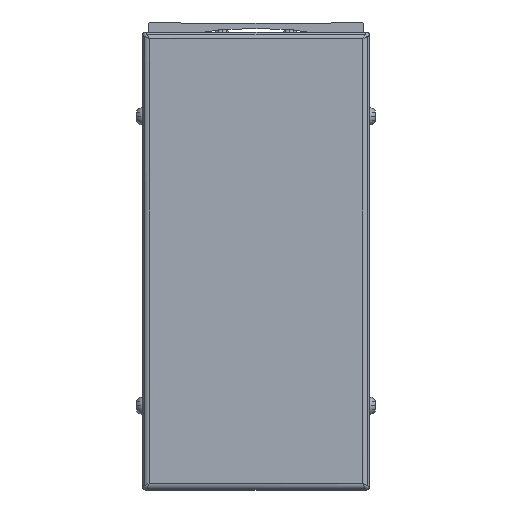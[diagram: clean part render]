
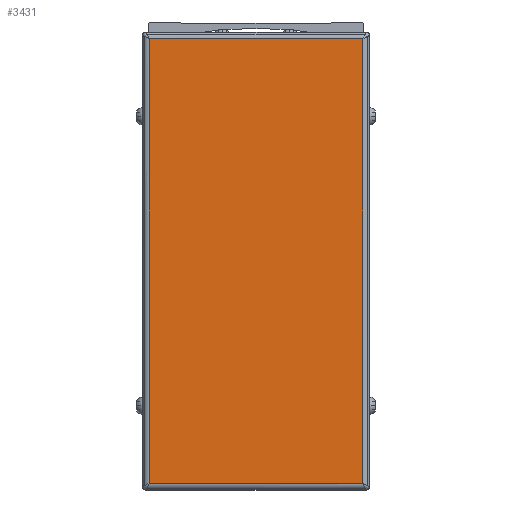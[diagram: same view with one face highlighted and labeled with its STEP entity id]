
A CAD part, front view. The second image highlights one B-rep face of the part: STEP entity #3431.
In plain terms, the highlighted planar face has unit normal (0, -1, 0).
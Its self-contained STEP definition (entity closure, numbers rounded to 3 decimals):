
#3431=ADVANCED_FACE('',(#7697),#7698,.T.);
#7697=FACE_OUTER_BOUND('',#13411,.T.);
#7698=PLANE('',#13412);
#13411=EDGE_LOOP('',(#23054,#23055,#23056,#23057));
#13412=AXIS2_PLACEMENT_3D('',#23058,#23059,#23060);
#23054=ORIENTED_EDGE('',*,*,#35936,.F.);
#23055=ORIENTED_EDGE('',*,*,#35937,.F.);
#23056=ORIENTED_EDGE('',*,*,#35938,.F.);
#23057=ORIENTED_EDGE('',*,*,#35939,.F.);
#23058=CARTESIAN_POINT('',(300.,131.,-44.));
#23059=DIRECTION('',(0.,-1.0,0.));
#23060=DIRECTION('',(0.,0.,1.0));
#35936=EDGE_CURVE('',#44002,#44003,#44004,.T.);
#35937=EDGE_CURVE('',#44005,#44002,#44006,.T.);
#35938=EDGE_CURVE('',#44007,#44005,#44008,.T.);
#35939=EDGE_CURVE('',#44003,#44007,#44009,.T.);
#44002=VERTEX_POINT('',#54959);
#44003=VERTEX_POINT('',#54960);
#44004=LINE('',#54961,#54962);
#44005=VERTEX_POINT('',#54963);
#44006=LINE('',#54964,#54965);
#44007=VERTEX_POINT('',#54966);
#44008=LINE('',#54967,#54968);
#44009=LINE('',#54969,#54970);
#54959=CARTESIAN_POINT('',(268.3,131.,22.));
#54960=CARTESIAN_POINT('',(331.7,131.,22.));
#54961=CARTESIAN_POINT('',(300.,131.,22.));
#54962=VECTOR('',#64279,10.0);
#54963=CARTESIAN_POINT('',(268.3,131.,-110.));
#54964=CARTESIAN_POINT('',(268.3,131.,-44.));
#54965=VECTOR('',#64280,10.0);
#54966=CARTESIAN_POINT('',(331.7,131.,-110.));
#54967=CARTESIAN_POINT('',(300.,131.,-110.));
#54968=VECTOR('',#64281,10.0);
#54969=CARTESIAN_POINT('',(331.7,131.,-44.));
#54970=VECTOR('',#64282,10.0);
#64279=DIRECTION('',(1.0,0.,0.));
#64280=DIRECTION('',(0.,0.,1.0));
#64281=DIRECTION('',(-1.0,0.,0.));
#64282=DIRECTION('',(0.,0.,-1.0));
